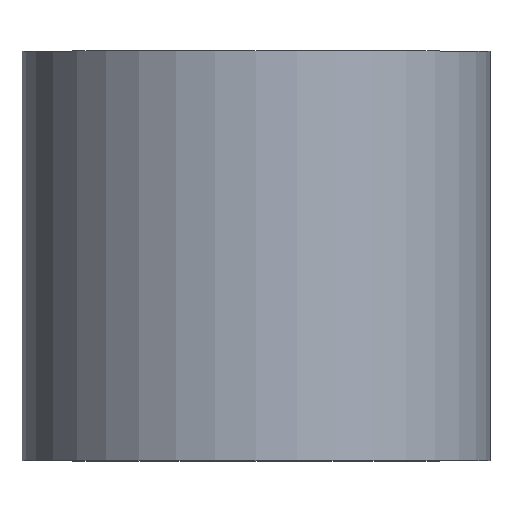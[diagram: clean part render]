
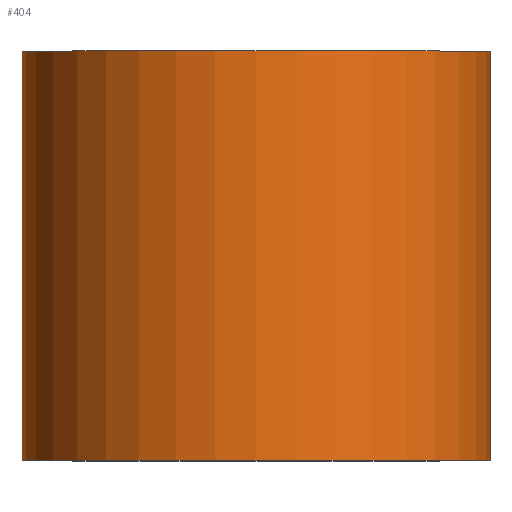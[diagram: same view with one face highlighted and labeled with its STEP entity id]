
A CAD part, top view. The second image highlights one B-rep face of the part: STEP entity #404.
In plain terms, the highlighted cylindrical face has radius 20 mm (diameter 40 mm), a partial arc.
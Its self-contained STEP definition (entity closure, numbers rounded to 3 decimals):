
#9 = DIRECTION ( 'NONE',  ( 0., -1., 0. ) ) ;
#18 = DIRECTION ( 'NONE',  ( 0., -1., 0. ) ) ;
#40 = ORIENTED_EDGE ( 'NONE', *, *, #490, .F. ) ;
#45 = CARTESIAN_POINT ( 'NONE',  ( -20., 0., 0. ) ) ;
#63 = CARTESIAN_POINT ( 'NONE',  ( 0., 0., 0. ) ) ;
#70 = CARTESIAN_POINT ( 'NONE',  ( -20., 35., 0. ) ) ;
#95 = VERTEX_POINT ( 'NONE', #70 ) ;
#96 = EDGE_LOOP ( 'NONE', ( #40, #516, #231, #147 ) ) ;
#104 = CARTESIAN_POINT ( 'NONE',  ( 20., 35., 0. ) ) ;
#141 = EDGE_CURVE ( 'NONE', #188, #257, #306, .T. ) ;
#147 = ORIENTED_EDGE ( 'NONE', *, *, #431, .T. ) ;
#157 = CARTESIAN_POINT ( 'NONE',  ( 0., 17.5, 0. ) ) ;
#188 = VERTEX_POINT ( 'NONE', #251 ) ;
#199 = DIRECTION ( 'NONE',  ( 1., 0., 0. ) ) ;
#205 = DIRECTION ( 'NONE',  ( 0., 1., 0. ) ) ;
#230 = CARTESIAN_POINT ( 'NONE',  ( 0., 35., 0. ) ) ;
#231 = ORIENTED_EDGE ( 'NONE', *, *, #603, .T. ) ;
#251 = CARTESIAN_POINT ( 'NONE',  ( 20., 0., 0. ) ) ;
#257 = VERTEX_POINT ( 'NONE', #45 ) ;
#276 = AXIS2_PLACEMENT_3D ( 'NONE', #157, #430, #342 ) ;
#306 = CIRCLE ( 'NONE', #441, 20. ) ;
#314 = DIRECTION ( 'NONE',  ( 0., 1., 0. ) ) ;
#322 = VERTEX_POINT ( 'NONE', #104 ) ;
#342 = DIRECTION ( 'NONE',  ( 1., 0., 0. ) ) ;
#349 = VECTOR ( 'NONE', #314, 1000. ) ;
#367 = CARTESIAN_POINT ( 'NONE',  ( 20., 17.5, 0. ) ) ;
#376 = DIRECTION ( 'NONE',  ( 1., 0., 0. ) ) ;
#382 = VECTOR ( 'NONE', #205, 1000. ) ;
#384 = AXIS2_PLACEMENT_3D ( 'NONE', #230, #9, #376 ) ;
#391 = FACE_OUTER_BOUND ( 'NONE', #96, .T. ) ;
#404 = ADVANCED_FACE ( 'NONE', ( #391 ), #577, .T. ) ;
#430 = DIRECTION ( 'NONE',  ( 0., 1., 0. ) ) ;
#431 = EDGE_CURVE ( 'NONE', #322, #95, #539, .T. ) ;
#441 = AXIS2_PLACEMENT_3D ( 'NONE', #63, #18, #199 ) ;
#481 = CARTESIAN_POINT ( 'NONE',  ( -20., 17.5, 0. ) ) ;
#490 = EDGE_CURVE ( 'NONE', #257, #95, #581, .T. ) ;
#516 = ORIENTED_EDGE ( 'NONE', *, *, #141, .F. ) ;
#539 = CIRCLE ( 'NONE', #384, 20. ) ;
#540 = LINE ( 'NONE', #367, #349 ) ;
#577 = CYLINDRICAL_SURFACE ( 'NONE', #276, 20. ) ;
#581 = LINE ( 'NONE', #481, #382 ) ;
#603 = EDGE_CURVE ( 'NONE', #188, #322, #540, .T. ) ;
